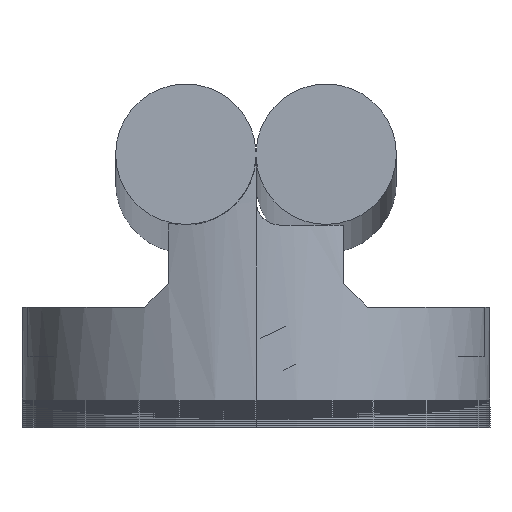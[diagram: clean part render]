
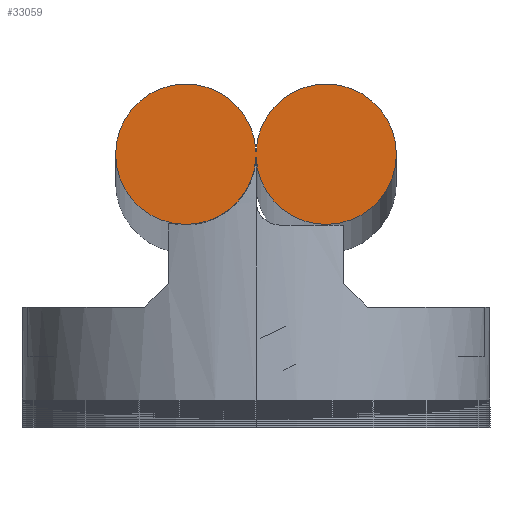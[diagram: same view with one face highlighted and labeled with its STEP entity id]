
A CAD part, top view. The second image highlights one B-rep face of the part: STEP entity #33059.
In plain terms, the highlighted planar face has unit normal (0, 0, 1).
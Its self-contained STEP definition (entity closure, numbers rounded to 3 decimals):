
#2657 = CARTESIAN_POINT ( 'NONE',  ( 12., 21., 0. ) ) ;
#2707 = CARTESIAN_POINT ( 'NONE',  ( 0.005, 20.75, 0. ) ) ;
#2708 = DIRECTION ( 'NONE',  ( 1., 0., 0. ) ) ;
#2709 = DIRECTION ( 'NONE',  ( 0., 0., 1. ) ) ;
#2710 = CARTESIAN_POINT ( 'NONE',  ( 6., 21., 0. ) ) ;
#2711 = AXIS2_PLACEMENT_3D ( 'NONE', #2710, #2709, #2708 ) ;
#2712 = CIRCLE ( 'NONE', #2711, 6. ) ;
#7550 = CARTESIAN_POINT ( 'NONE',  ( -0.005, 21.25, 0. ) ) ;
#7551 = DIRECTION ( 'NONE',  ( -1., 0., 0. ) ) ;
#7552 = DIRECTION ( 'NONE',  ( 0., 0., 1. ) ) ;
#7553 = CARTESIAN_POINT ( 'NONE',  ( -6., 21., 0. ) ) ;
#7554 = AXIS2_PLACEMENT_3D ( 'NONE', #7553, #7552, #7551 ) ;
#7555 = CIRCLE ( 'NONE', #7554, 6. ) ;
#7645 = DIRECTION ( 'NONE',  ( 1., 0., 0. ) ) ;
#7646 = VECTOR ( 'NONE', #7645, 1000. ) ;
#7647 = CARTESIAN_POINT ( 'NONE',  ( -0.005, 20.75, 0. ) ) ;
#7648 = LINE ( 'NONE', #7647, #7646 ) ;
#7729 = CARTESIAN_POINT ( 'NONE',  ( -0.005, 20.75, 0. ) ) ;
#7896 = DIRECTION ( 'NONE',  ( -1., 0., 0. ) ) ;
#7897 = VECTOR ( 'NONE', #7896, 1000. ) ;
#7898 = CARTESIAN_POINT ( 'NONE',  ( -0.005, 21.25, 0. ) ) ;
#7899 = LINE ( 'NONE', #7898, #7897 ) ;
#7939 = CARTESIAN_POINT ( 'NONE',  ( 0.005, 21.25, 0. ) ) ;
#8014 = FACE_OUTER_BOUND ( 'NONE', #33060, .T. ) ;
#8045 = DIRECTION ( 'NONE',  ( 1., 0., 0. ) ) ;
#8046 = DIRECTION ( 'NONE',  ( 0., 0., 1. ) ) ;
#8047 = CARTESIAN_POINT ( 'NONE',  ( 6., 21., 0. ) ) ;
#8048 = AXIS2_PLACEMENT_3D ( 'NONE', #8047, #8046, #8045 ) ;
#8049 = CIRCLE ( 'NONE', #8048, 6. ) ;
#8056 = DIRECTION ( 'NONE',  ( 1., 0., 0. ) ) ;
#8057 = DIRECTION ( 'NONE',  ( 0., 0., 1. ) ) ;
#8058 = CARTESIAN_POINT ( 'NONE',  ( 6., 21., 0. ) ) ;
#8059 = AXIS2_PLACEMENT_3D ( 'NONE', #8058, #8057, #8056 ) ;
#8060 = PLANE ( 'NONE',  #8059 ) ;
#30651 = VERTEX_POINT ( 'NONE', #2657 ) ;
#30653 = EDGE_CURVE ( 'NONE', #30654, #30651, #2712, .T. ) ;
#30654 = VERTEX_POINT ( 'NONE', #2707 ) ;
#32803 = EDGE_CURVE ( 'NONE', #32804, #32901, #7555, .T. ) ;
#32804 = VERTEX_POINT ( 'NONE', #7550 ) ;
#32869 = EDGE_CURVE ( 'NONE', #32901, #30654, #7648, .T. ) ;
#32901 = VERTEX_POINT ( 'NONE', #7729 ) ;
#32991 = EDGE_CURVE ( 'NONE', #33011, #32804, #7899, .T. ) ;
#33011 = VERTEX_POINT ( 'NONE', #7939 ) ;
#33059 = ADVANCED_FACE ( 'NONE', ( #8014 ), #8060, .T. ) ;
#33060 = EDGE_LOOP ( 'NONE', ( #33061, #33062, #33063, #33064, #33065 ) ) ;
#33061 = ORIENTED_EDGE ( 'NONE', *, *, #30653, .T. ) ;
#33062 = ORIENTED_EDGE ( 'NONE', *, *, #33068, .T. ) ;
#33063 = ORIENTED_EDGE ( 'NONE', *, *, #32991, .T. ) ;
#33064 = ORIENTED_EDGE ( 'NONE', *, *, #32803, .T. ) ;
#33065 = ORIENTED_EDGE ( 'NONE', *, *, #32869, .T. ) ;
#33068 = EDGE_CURVE ( 'NONE', #30651, #33011, #8049, .T. ) ;
